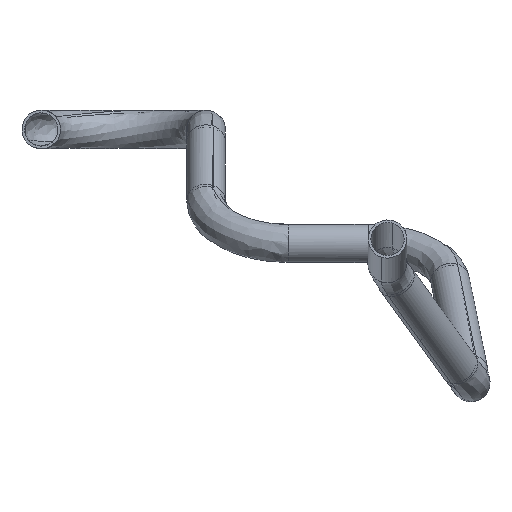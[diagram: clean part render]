
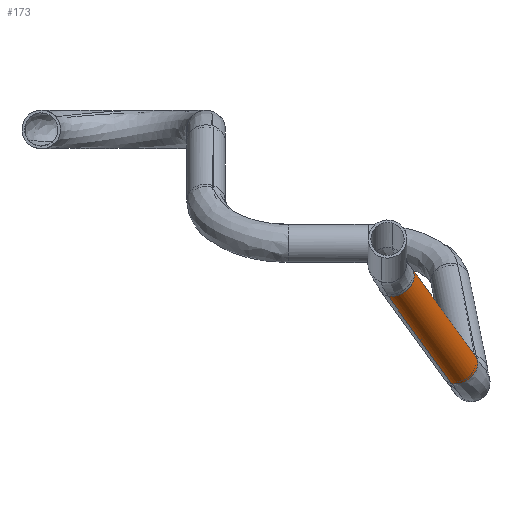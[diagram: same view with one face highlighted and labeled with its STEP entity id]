
A CAD part, left-side view. The second image highlights one B-rep face of the part: STEP entity #173.
In plain terms, the highlighted cylindrical face has radius 11 mm (diameter 22 mm), a partial arc.
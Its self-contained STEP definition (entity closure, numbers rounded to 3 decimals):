
#146=AXIS2_PLACEMENT_3D('Cylinder Axis2P3D',#143,#144,#145) ;
#157=AXIS2_PLACEMENT_3D('Circle Axis2P3D',#155,#156,$) ;
#115=CARTESIAN_POINT('Vertex',(-13702.157,791.272,276.425)) ;
#119=CARTESIAN_POINT('Control Point',(-13694.603,781.722,294.748)) ;
#120=CARTESIAN_POINT('Control Point',(-13718.032,745.622,285.591)) ;
#121=CARTESIAN_POINT('Control Point',(-13721.425,782.773,253.524)) ;
#122=CARTESIAN_POINT('Control Point',(-13697.996,818.873,262.681)) ;
#123=CARTESIAN_POINT('Control Point',(-13671.174,817.822,303.906)) ;
#124=CARTESIAN_POINT('Control Point',(-13694.603,781.722,294.748)) ;
#125=CARTESIAN_POINT('Vertex',(-13694.603,781.722,294.748)) ;
#143=CARTESIAN_POINT('Axis2P3D Location',(-13660.685,768.372,260.599)) ;
#148=CARTESIAN_POINT('Line Origine',(-13664.462,773.147,251.437)) ;
#152=CARTESIAN_POINT('Vertex',(-13626.766,755.021,226.449)) ;
#155=CARTESIAN_POINT('Axis2P3D Location',(-13622.989,750.246,235.611)) ;
#159=CARTESIAN_POINT('Vertex',(-13619.212,745.471,244.772)) ;
#162=CARTESIAN_POINT('Line Origine',(-13656.908,763.596,269.76)) ;
#144=DIRECTION('Axis2P3D Direction',(0.774,-0.372,-0.513)) ;
#145=DIRECTION('Axis2P3D XDirection',(0.343,-0.434,0.833)) ;
#149=DIRECTION('Vector Direction',(0.774,-0.372,-0.513)) ;
#156=DIRECTION('Axis2P3D Direction',(0.774,-0.372,-0.513)) ;
#163=DIRECTION('Vector Direction',(0.774,-0.372,-0.513)) ;
#150=VECTOR('Line Direction',#149,1.) ;
#164=VECTOR('Line Direction',#163,1.) ;
#168=ORIENTED_EDGE('',*,*,#127,.T.) ;
#169=ORIENTED_EDGE('',*,*,#154,.F.) ;
#170=ORIENTED_EDGE('',*,*,#161,.F.) ;
#171=ORIENTED_EDGE('',*,*,#166,.T.) ;
#173=ADVANCED_FACE('( + ) PartBody',(#172),#147,.T.) ;
#158=CIRCLE('generated circle',#157,11.) ;
#147=CYLINDRICAL_SURFACE('generated cylinder',#146,11.) ;
#127=EDGE_CURVE('',#126,#116,#118,.T.) ;
#154=EDGE_CURVE('',#153,#116,#151,.F.) ;
#161=EDGE_CURVE('',#160,#153,#158,.T.) ;
#166=EDGE_CURVE('',#160,#126,#165,.F.) ;
#167=EDGE_LOOP('',(#168,#169,#170,#171)) ;
#172=FACE_OUTER_BOUND('',#167,.T.) ;
#151=LINE('Line',#148,#150) ;
#165=LINE('Line',#162,#164) ;
#116=VERTEX_POINT('',#115) ;
#126=VERTEX_POINT('',#125) ;
#153=VERTEX_POINT('',#152) ;
#160=VERTEX_POINT('',#159) ;
#118=(BOUNDED_CURVE()B_SPLINE_CURVE(5,(#119,#120,#121,#122,#123,#124),.UNSPECIFIED.,.F.,.U.)B_SPLINE_CURVE_WITH_KNOTS((6,6),(0.,69.115),.UNSPECIFIED.)CURVE()GEOMETRIC_REPRESENTATION_ITEM()RATIONAL_B_SPLINE_CURVE((1.,0.2,0.2,0.2,0.2,1.))REPRESENTATION_ITEM('')) ;
